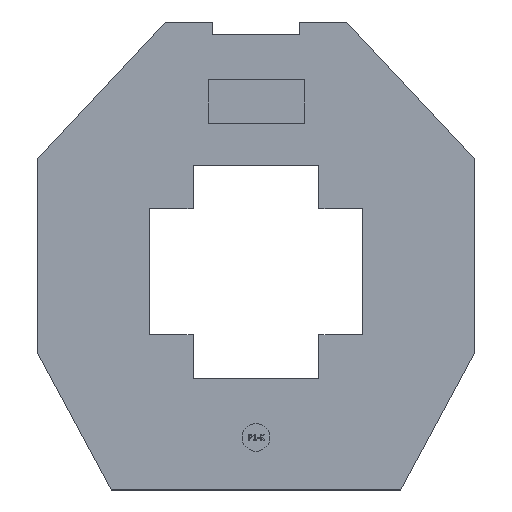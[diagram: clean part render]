
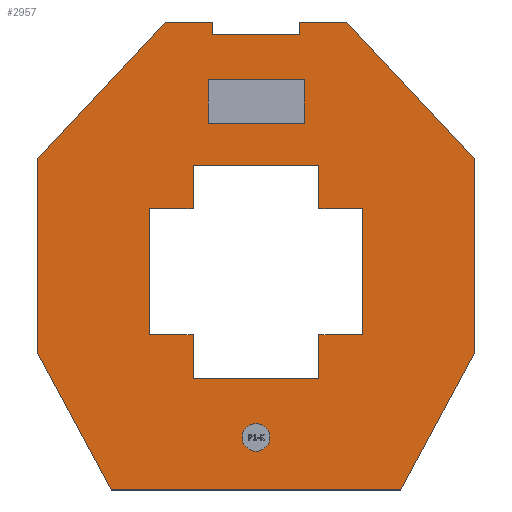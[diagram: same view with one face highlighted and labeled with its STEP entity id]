
A CAD part, top view. The second image highlights one B-rep face of the part: STEP entity #2957.
In plain terms, the highlighted planar face has unit normal (0, 0, 1).
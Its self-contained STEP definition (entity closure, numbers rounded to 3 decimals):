
#28=FACE_BOUND('',#570,.T.);
#29=FACE_BOUND('',#571,.T.);
#30=FACE_BOUND('',#572,.T.);
#242=PLANE('',#3109);
#399=FACE_OUTER_BOUND('',#569,.T.);
#569=EDGE_LOOP('',(#2739,#2740,#2741,#2742,#2743,#2744,#2745,#2746,#2747,
#2748,#2749,#2750));
#570=EDGE_LOOP('',(#2751,#2752,#2753,#2754));
#571=EDGE_LOOP('',(#2755,#2756,#2757,#2758,#2759,#2760,#2761,#2762,#2763,
#2764,#2765,#2766));
#572=EDGE_LOOP('',(#2767));
#688=LINE('',#4711,#1034);
#692=LINE('',#4719,#1038);
#695=LINE('',#4725,#1041);
#698=LINE('',#4730,#1044);
#851=LINE('',#5048,#1197);
#855=LINE('',#5056,#1201);
#858=LINE('',#5062,#1204);
#861=LINE('',#5068,#1207);
#864=LINE('',#5074,#1210);
#867=LINE('',#5080,#1213);
#870=LINE('',#5086,#1216);
#873=LINE('',#5092,#1219);
#876=LINE('',#5098,#1222);
#879=LINE('',#5104,#1225);
#882=LINE('',#5110,#1228);
#885=LINE('',#5115,#1231);
#887=LINE('',#5120,#1233);
#891=LINE('',#5128,#1237);
#894=LINE('',#5134,#1240);
#897=LINE('',#5140,#1243);
#900=LINE('',#5146,#1246);
#903=LINE('',#5152,#1249);
#906=LINE('',#5158,#1252);
#909=LINE('',#5164,#1255);
#912=LINE('',#5170,#1258);
#915=LINE('',#5176,#1261);
#918=LINE('',#5182,#1264);
#921=LINE('',#5187,#1267);
#1034=VECTOR('',#3322,10.);
#1038=VECTOR('',#3328,10.);
#1041=VECTOR('',#3333,10.);
#1044=VECTOR('',#3338,10.);
#1197=VECTOR('',#3613,10.);
#1201=VECTOR('',#3619,10.);
#1204=VECTOR('',#3624,10.);
#1207=VECTOR('',#3629,10.);
#1210=VECTOR('',#3634,10.);
#1213=VECTOR('',#3639,10.);
#1216=VECTOR('',#3644,10.);
#1219=VECTOR('',#3649,10.);
#1222=VECTOR('',#3654,10.);
#1225=VECTOR('',#3659,10.);
#1228=VECTOR('',#3664,10.);
#1231=VECTOR('',#3669,10.);
#1233=VECTOR('',#3673,10.);
#1237=VECTOR('',#3679,10.);
#1240=VECTOR('',#3684,10.);
#1243=VECTOR('',#3689,10.);
#1246=VECTOR('',#3694,10.);
#1249=VECTOR('',#3699,10.);
#1252=VECTOR('',#3704,10.);
#1255=VECTOR('',#3709,10.);
#1258=VECTOR('',#3714,10.);
#1261=VECTOR('',#3719,10.);
#1264=VECTOR('',#3724,10.);
#1267=VECTOR('',#3729,10.);
#1277=CIRCLE('',#3068,7.934);
#1397=VERTEX_POINT('',#4709);
#1398=VERTEX_POINT('',#4710);
#1401=VERTEX_POINT('',#4718);
#1403=VERTEX_POINT('',#4724);
#1487=VERTEX_POINT('',#4980);
#1507=VERTEX_POINT('',#5046);
#1508=VERTEX_POINT('',#5047);
#1511=VERTEX_POINT('',#5055);
#1513=VERTEX_POINT('',#5061);
#1515=VERTEX_POINT('',#5067);
#1517=VERTEX_POINT('',#5073);
#1519=VERTEX_POINT('',#5079);
#1521=VERTEX_POINT('',#5085);
#1523=VERTEX_POINT('',#5091);
#1525=VERTEX_POINT('',#5097);
#1527=VERTEX_POINT('',#5103);
#1529=VERTEX_POINT('',#5109);
#1531=VERTEX_POINT('',#5118);
#1532=VERTEX_POINT('',#5119);
#1535=VERTEX_POINT('',#5127);
#1537=VERTEX_POINT('',#5133);
#1539=VERTEX_POINT('',#5139);
#1541=VERTEX_POINT('',#5145);
#1543=VERTEX_POINT('',#5151);
#1545=VERTEX_POINT('',#5157);
#1547=VERTEX_POINT('',#5163);
#1549=VERTEX_POINT('',#5169);
#1551=VERTEX_POINT('',#5175);
#1553=VERTEX_POINT('',#5181);
#1732=EDGE_CURVE('',#1397,#1398,#688,.T.);
#1736=EDGE_CURVE('',#1401,#1397,#692,.T.);
#1739=EDGE_CURVE('',#1403,#1401,#695,.T.);
#1742=EDGE_CURVE('',#1398,#1403,#698,.T.);
#1867=EDGE_CURVE('',#1487,#1487,#1277,.T.);
#1897=EDGE_CURVE('',#1507,#1508,#851,.T.);
#1901=EDGE_CURVE('',#1508,#1511,#855,.T.);
#1904=EDGE_CURVE('',#1511,#1513,#858,.T.);
#1907=EDGE_CURVE('',#1513,#1515,#861,.T.);
#1910=EDGE_CURVE('',#1515,#1517,#864,.T.);
#1913=EDGE_CURVE('',#1517,#1519,#867,.T.);
#1916=EDGE_CURVE('',#1519,#1521,#870,.T.);
#1919=EDGE_CURVE('',#1521,#1523,#873,.T.);
#1922=EDGE_CURVE('',#1523,#1525,#876,.T.);
#1925=EDGE_CURVE('',#1525,#1527,#879,.T.);
#1928=EDGE_CURVE('',#1527,#1529,#882,.T.);
#1931=EDGE_CURVE('',#1529,#1507,#885,.T.);
#1933=EDGE_CURVE('',#1531,#1532,#887,.T.);
#1937=EDGE_CURVE('',#1532,#1535,#891,.T.);
#1940=EDGE_CURVE('',#1535,#1537,#894,.T.);
#1943=EDGE_CURVE('',#1537,#1539,#897,.T.);
#1946=EDGE_CURVE('',#1539,#1541,#900,.T.);
#1949=EDGE_CURVE('',#1541,#1543,#903,.T.);
#1952=EDGE_CURVE('',#1543,#1545,#906,.T.);
#1955=EDGE_CURVE('',#1545,#1547,#909,.T.);
#1958=EDGE_CURVE('',#1547,#1549,#912,.T.);
#1961=EDGE_CURVE('',#1549,#1551,#915,.T.);
#1964=EDGE_CURVE('',#1551,#1553,#918,.T.);
#1967=EDGE_CURVE('',#1553,#1531,#921,.T.);
#2739=ORIENTED_EDGE('',*,*,#1967,.T.);
#2740=ORIENTED_EDGE('',*,*,#1933,.T.);
#2741=ORIENTED_EDGE('',*,*,#1937,.T.);
#2742=ORIENTED_EDGE('',*,*,#1940,.T.);
#2743=ORIENTED_EDGE('',*,*,#1943,.T.);
#2744=ORIENTED_EDGE('',*,*,#1946,.T.);
#2745=ORIENTED_EDGE('',*,*,#1949,.T.);
#2746=ORIENTED_EDGE('',*,*,#1952,.T.);
#2747=ORIENTED_EDGE('',*,*,#1955,.T.);
#2748=ORIENTED_EDGE('',*,*,#1958,.T.);
#2749=ORIENTED_EDGE('',*,*,#1961,.T.);
#2750=ORIENTED_EDGE('',*,*,#1964,.T.);
#2751=ORIENTED_EDGE('',*,*,#1732,.T.);
#2752=ORIENTED_EDGE('',*,*,#1742,.T.);
#2753=ORIENTED_EDGE('',*,*,#1739,.T.);
#2754=ORIENTED_EDGE('',*,*,#1736,.T.);
#2755=ORIENTED_EDGE('',*,*,#1931,.T.);
#2756=ORIENTED_EDGE('',*,*,#1897,.T.);
#2757=ORIENTED_EDGE('',*,*,#1901,.T.);
#2758=ORIENTED_EDGE('',*,*,#1904,.T.);
#2759=ORIENTED_EDGE('',*,*,#1907,.T.);
#2760=ORIENTED_EDGE('',*,*,#1910,.T.);
#2761=ORIENTED_EDGE('',*,*,#1913,.T.);
#2762=ORIENTED_EDGE('',*,*,#1916,.T.);
#2763=ORIENTED_EDGE('',*,*,#1919,.T.);
#2764=ORIENTED_EDGE('',*,*,#1922,.T.);
#2765=ORIENTED_EDGE('',*,*,#1925,.T.);
#2766=ORIENTED_EDGE('',*,*,#1928,.T.);
#2767=ORIENTED_EDGE('',*,*,#1867,.T.);
#2957=ADVANCED_FACE('',(#399,#28,#29,#30),#242,.T.);
#3068=AXIS2_PLACEMENT_3D('',#4981,#3549,#3550);
#3109=AXIS2_PLACEMENT_3D('',#5189,#3731,#3732);
#3322=DIRECTION('',(1.,0.,0.));
#3328=DIRECTION('',(0.,1.,0.));
#3333=DIRECTION('',(-1.,0.,0.));
#3338=DIRECTION('',(0.,-1.,0.));
#3549=DIRECTION('center_axis',(0.,0.,-1.));
#3550=DIRECTION('ref_axis',(1.,0.,0.));
#3613=DIRECTION('',(0.,-1.,0.));
#3619=DIRECTION('',(1.,0.,0.));
#3624=DIRECTION('',(0.,-1.,0.));
#3629=DIRECTION('',(-1.,0.,0.));
#3634=DIRECTION('',(0.,-1.,0.));
#3639=DIRECTION('',(-1.,0.,0.));
#3644=DIRECTION('',(0.,1.,0.));
#3649=DIRECTION('',(-1.,0.,0.));
#3654=DIRECTION('',(0.,1.,0.));
#3659=DIRECTION('',(1.,0.,0.));
#3664=DIRECTION('',(0.,1.,0.));
#3669=DIRECTION('',(1.,0.,0.));
#3673=DIRECTION('',(-1.,0.,0.));
#3679=DIRECTION('',(0.,-1.,0.));
#3684=DIRECTION('',(-1.,0.,0.));
#3689=DIRECTION('',(0.,1.,0.));
#3694=DIRECTION('',(-1.,0.,0.));
#3699=DIRECTION('',(-0.684,-0.73,0.));
#3704=DIRECTION('',(0.,-1.,0.));
#3709=DIRECTION('',(0.475,-0.88,0.));
#3714=DIRECTION('',(1.,0.,0.));
#3719=DIRECTION('',(0.475,0.88,0.));
#3724=DIRECTION('',(0.,1.,0.));
#3729=DIRECTION('',(-0.684,0.73,0.));
#3731=DIRECTION('center_axis',(0.,0.,1.));
#3732=DIRECTION('ref_axis',(1.,0.,0.));
#4709=CARTESIAN_POINT('',(632.001,469.152,0.));
#4710=CARTESIAN_POINT('',(686.97,469.152,0.));
#4711=CARTESIAN_POINT('',(645.616,469.152,0.));
#4718=CARTESIAN_POINT('',(632.001,444.144,0.));
#4719=CARTESIAN_POINT('',(632.001,406.186,0.));
#4724=CARTESIAN_POINT('',(686.97,444.144,0.));
#4725=CARTESIAN_POINT('',(673.101,444.144,0.));
#4730=CARTESIAN_POINT('',(686.97,418.69,0.));
#4980=CARTESIAN_POINT('',(651.297,264.322,0.));
#4981=CARTESIAN_POINT('Origin',(659.231,264.322,0.));
#5046=CARTESIAN_POINT('',(695.258,420.214,0.));
#5047=CARTESIAN_POINT('',(695.258,395.242,0.));
#5048=CARTESIAN_POINT('',(695.258,420.214,0.));
#5055=CARTESIAN_POINT('',(720.23,395.242,0.));
#5056=CARTESIAN_POINT('',(695.258,395.242,0.));
#5061=CARTESIAN_POINT('',(720.23,323.189,0.));
#5062=CARTESIAN_POINT('',(720.23,395.242,0.));
#5067=CARTESIAN_POINT('',(695.258,323.189,0.));
#5068=CARTESIAN_POINT('',(720.23,323.189,0.));
#5073=CARTESIAN_POINT('',(695.258,298.217,0.));
#5074=CARTESIAN_POINT('',(695.258,323.189,0.));
#5079=CARTESIAN_POINT('',(623.205,298.217,0.));
#5080=CARTESIAN_POINT('',(695.258,298.217,0.));
#5085=CARTESIAN_POINT('',(623.205,323.189,0.));
#5086=CARTESIAN_POINT('',(623.205,298.217,0.));
#5091=CARTESIAN_POINT('',(598.233,323.189,0.));
#5092=CARTESIAN_POINT('',(623.205,323.189,0.));
#5097=CARTESIAN_POINT('',(598.233,395.242,0.));
#5098=CARTESIAN_POINT('',(598.233,323.189,0.));
#5103=CARTESIAN_POINT('',(623.205,395.242,0.));
#5104=CARTESIAN_POINT('',(598.233,395.242,0.));
#5109=CARTESIAN_POINT('',(623.205,420.214,0.));
#5110=CARTESIAN_POINT('',(623.205,395.242,0.));
#5115=CARTESIAN_POINT('',(623.205,420.214,0.));
#5118=CARTESIAN_POINT('',(711.217,502.159,0.));
#5119=CARTESIAN_POINT('',(684.177,502.159,0.));
#5120=CARTESIAN_POINT('',(711.217,502.159,0.));
#5127=CARTESIAN_POINT('',(684.177,495.177,0.));
#5128=CARTESIAN_POINT('',(684.177,502.159,0.));
#5133=CARTESIAN_POINT('',(634.286,495.177,0.));
#5134=CARTESIAN_POINT('',(684.177,495.177,0.));
#5139=CARTESIAN_POINT('',(634.286,502.159,0.));
#5140=CARTESIAN_POINT('',(634.286,495.177,0.));
#5145=CARTESIAN_POINT('',(607.246,502.159,0.));
#5146=CARTESIAN_POINT('',(634.286,502.159,0.));
#5151=CARTESIAN_POINT('',(534.251,424.213,0.));
#5152=CARTESIAN_POINT('',(607.246,502.159,0.));
#5157=CARTESIAN_POINT('',(534.251,312.245,0.));
#5158=CARTESIAN_POINT('',(534.251,424.213,0.));
#5163=CARTESIAN_POINT('',(576.271,234.298,0.));
#5164=CARTESIAN_POINT('',(534.251,312.245,0.));
#5169=CARTESIAN_POINT('',(742.192,234.298,0.));
#5170=CARTESIAN_POINT('',(576.271,234.298,0.));
#5175=CARTESIAN_POINT('',(784.212,312.245,0.));
#5176=CARTESIAN_POINT('',(742.192,234.298,0.));
#5181=CARTESIAN_POINT('',(784.212,424.213,0.));
#5182=CARTESIAN_POINT('',(784.212,312.245,0.));
#5187=CARTESIAN_POINT('',(784.212,424.213,0.));
#5189=CARTESIAN_POINT('Origin',(659.231,368.229,0.));
